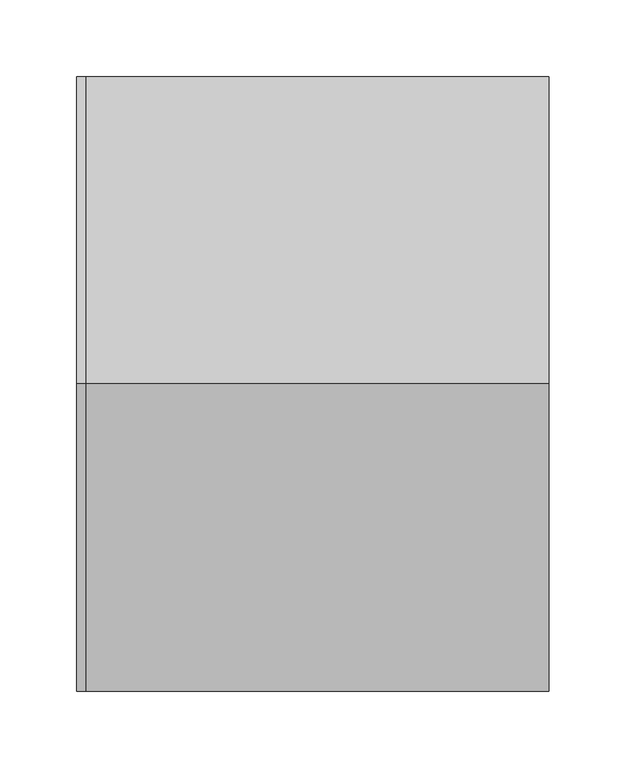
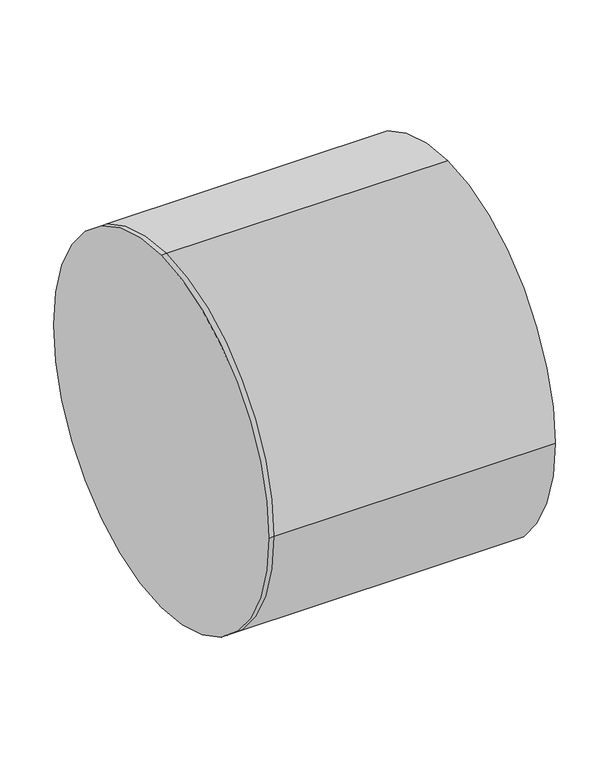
"""IFC4 building model written with IfcOpenShell, lengths in millimetres: duct fitting geometry, M_Encaixe de duto redondo : Padrão."""

from ifc_helpers import new_model, si_unit, frame, origin, place, context, project, spatial, circle_curve, source, transform, mapped, element, save
from ifc_brep_helpers import plane_surface, cylinder_surface, advanced_brep


def duct_fitting_1040440d(model_context):
    return source(origin(), model_context, "Body", "AdvancedBrep", [
        advanced_brep(
        [(301.6, 0.0, 200.0), (301.6, -200.0, 0.0), (301.6, 0.0, -200.0), (301.6, 200.0, 0.0), (0.0, 0.0, 200.0), (0.0, -200.0, 0.0), (0.0, 0.0, -200.0), (0.0, 200.0, 0.0), (-6.096, 0.0, 200.0), (-6.096, 200.0, 0.0), (-6.096, 0.0, -200.0), (-6.096, -200.0, 0.0)],
        [
            (0, 1, circle_curve(frame((301.6, 0.0, 0.0), z_axis=(1.0, 0.0, 0.0), x_axis=(0.0, -1.0, 0.0)), 200.0)),
            (1, 2, circle_curve(frame((301.6, 0.0, 0.0), z_axis=(1.0, 0.0, 0.0), x_axis=(0.0, -1.0, 0.0)), 200.0)),
            (2, 3, circle_curve(frame((301.6, 0.0, 0.0), z_axis=(1.0, 0.0, 0.0), x_axis=(0.0, -1.0, 0.0)), 200.0)),
            (3, 0, circle_curve(frame((301.6, 0.0, 0.0), z_axis=(1.0, 0.0, 0.0), x_axis=(0.0, -1.0, 0.0)), 200.0)),
            (0, 4),
            (4, 5, circle_curve(frame((0.0, 0.0, 0.0), z_axis=(1.0, 0.0, 0.0), x_axis=(0.0, -1.0, 0.0)), 200.0)),
            (5, 1),
            (5, 6, circle_curve(frame((0.0, 0.0, 0.0), z_axis=(1.0, 0.0, 0.0), x_axis=(0.0, -1.0, 0.0)), 200.0)),
            (6, 2),
            (6, 7, circle_curve(frame((0.0, 0.0, 0.0), z_axis=(1.0, 0.0, 0.0), x_axis=(0.0, -1.0, 0.0)), 200.0)),
            (7, 3),
            (7, 4, circle_curve(frame((0.0, 0.0, 0.0), z_axis=(1.0, 0.0, 0.0), x_axis=(0.0, -1.0, 0.0)), 200.0)),
            (8, 9, circle_curve(frame((-6.096, 0.0, 0.0), z_axis=(-1.0, 0.0, 0.0), x_axis=(0.0, -1.0, 0.0)), 200.0)),
            (9, 10, circle_curve(frame((-6.096, 0.0, 0.0), z_axis=(-1.0, 0.0, 0.0), x_axis=(0.0, -1.0, 0.0)), 200.0)),
            (10, 11, circle_curve(frame((-6.096, 0.0, 0.0), z_axis=(-1.0, 0.0, 0.0), x_axis=(0.0, -1.0, 0.0)), 200.0)),
            (11, 8, circle_curve(frame((-6.096, 0.0, 0.0), z_axis=(-1.0, 0.0, 0.0), x_axis=(0.0, -1.0, 0.0)), 200.0)),
            (11, 5),
            (4, 8),
            (10, 6),
            (9, 7),
        ],
        [
            plane_surface(frame((301.6, 0.0, 0.0), z_axis=(1.0, 0.0, 0.0), x_axis=(0.0, 0.0, 1.0))),
            cylinder_surface(frame((0.0, 0.0, 0.0), z_axis=(-1.0, 0.0, 0.0), x_axis=(0.0, -1.0, 0.0)), 200.0),
            plane_surface(frame((-6.096, 0.0, 0.0), z_axis=(-1.0, 0.0, 0.0), x_axis=(0.0, 0.0, 1.0))),
            cylinder_surface(frame((-6.096, 0.0, 0.0), z_axis=(-1.0, 0.0, 0.0), x_axis=(0.0, -1.0, 0.0)), 200.0),
        ],
        [
            (0, [[1, 2, 3, 4]]),
            (1, [[5, 6, 7, -1]]),
            (1, [[-7, 8, 9, -2]]),
            (1, [[-9, 10, 11, -3]]),
            (1, [[-11, 12, -5, -4]]),
            (2, [[13, 14, 15, 16]]),
            (3, [[17, -6, 18, -16]]),
            (3, [[19, -8, -17, -15]]),
            (3, [[20, -10, -19, -14]]),
            (3, [[-18, -12, -20, -13]]),
        ],
    ),
    ])


if __name__ == "__main__":
    model = new_model("IFC4")
    model_context = context("Model", 3, world=origin())
    ifc_project = project(units=[si_unit("LENGTHUNIT", "METRE", prefix="MILLI")], contexts=[model_context])
    site = spatial("IfcSite", under=ifc_project)
    building = spatial("IfcBuilding", under=site)
    placement = place(None, origin())
    duct_fitting_shape = duct_fitting_1040440d(model_context)
    element("IfcDuctFitting", 1, ObjectType="M_Encaixe de duto redondo : Padrão", at=placement, inside=building, context=model_context, shape_type="MappedRepresentation", body=[
        mapped(duct_fitting_shape, transform((0.0, 0.0, 0.0), x_axis=(1.0, 0.0, 0.0), y_axis=(0.0, 1.0, 0.0), z_axis=(0.0, 0.0, 1.0))),
    ])
    save(model, "model.ifc")
